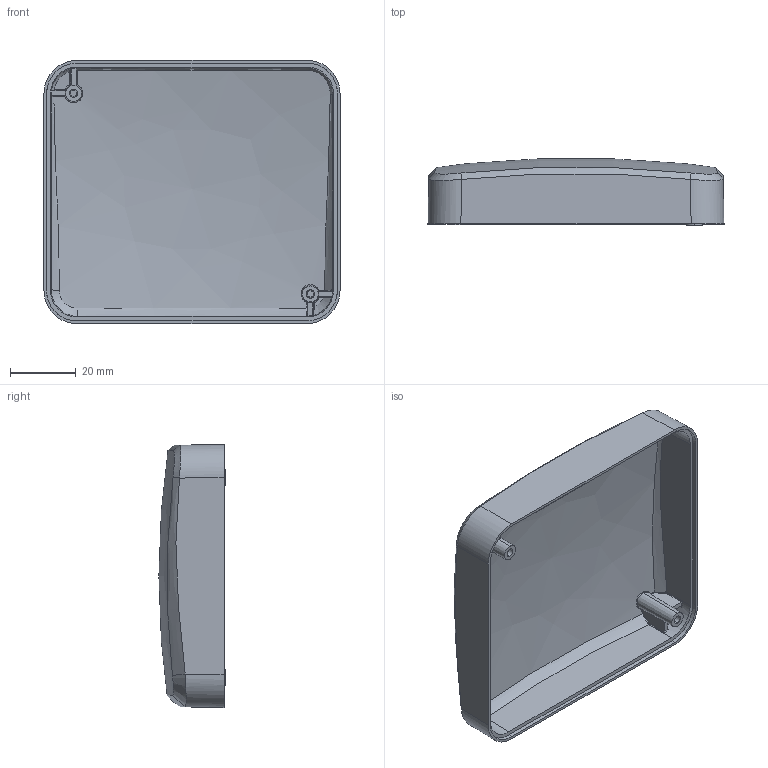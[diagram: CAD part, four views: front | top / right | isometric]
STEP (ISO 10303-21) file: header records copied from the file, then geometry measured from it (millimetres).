
FILE_DESCRIPTION (( 'STEP AP214' ), '1' );
FILE_NAME ('IR_Top.STEP', '2023-04-13T11:29:14', ( '' ), ( '' ), 'SwSTEP 2.0', 'SolidWorks 2022', '' );
FILE_SCHEMA (( 'AUTOMOTIVE_DESIGN' ));
Length unit declared in the file: millimetre
Products named in the file (1): IR_Top
Bounding box: 90 x 20.11 x 80 mm (x, y, z)
Volume: 22815.1 mm3; surface area: 24017.8 mm2
Topology: 1 solids, 1 shells, 139 faces, 386 edges, 259 vertices
Faces by surface type: bspline 61, plane 51, cylinder 19, cone 8
Entity records: 8410 total; most frequent: CARTESIAN_POINT 5232, ORIENTED_EDGE 772, EDGE_CURVE 386, DIRECTION 315, VERTEX_POINT 259, B_SPLINE_CURVE_WITH_KNOTS 208, EDGE_LOOP 149, ADVANCED_FACE 139
